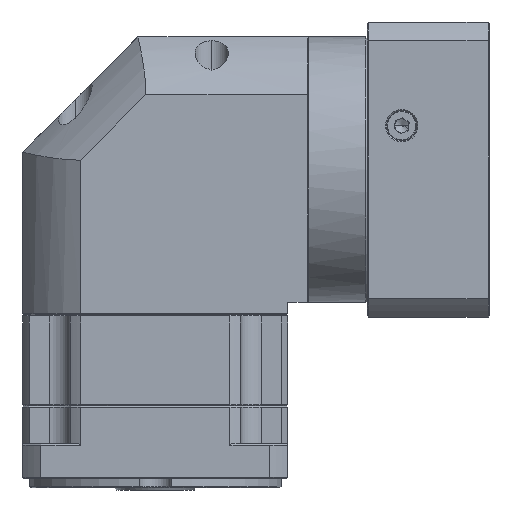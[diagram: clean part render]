
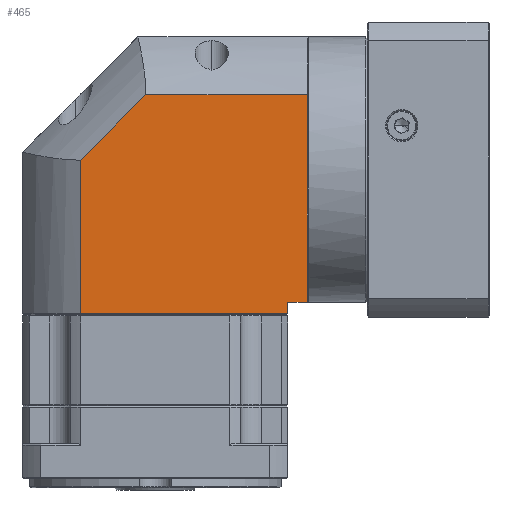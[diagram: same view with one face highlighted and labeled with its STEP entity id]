
A CAD part, front view. The second image highlights one B-rep face of the part: STEP entity #465.
In plain terms, the highlighted planar face has unit normal (0, -1, 0).
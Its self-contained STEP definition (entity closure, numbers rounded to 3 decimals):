
#465 = ADVANCED_FACE ( 'NONE', ( #86522 ), #58383, .F. ) ;
#849 = VERTEX_POINT ( 'NONE', #53193 ) ;
#3320 = LINE ( 'NONE', #107466, #113355 ) ;
#6767 = ORIENTED_EDGE ( 'NONE', *, *, #72844, .F. ) ;
#8560 = DIRECTION ( 'NONE',  ( -1., 0., 0. ) ) ;
#9732 = ORIENTED_EDGE ( 'NONE', *, *, #122087, .F. ) ;
#10076 = LINE ( 'NONE', #33274, #14801 ) ;
#11940 = EDGE_LOOP ( 'NONE', ( #6767, #34183, #72858, #74974, #71427, #9732, #96685 ) ) ;
#13223 = DIRECTION ( 'NONE',  ( 0., 0., -1. ) ) ;
#14801 = VECTOR ( 'NONE', #13223, 1000. ) ;
#18416 = VECTOR ( 'NONE', #30416, 1000. ) ;
#19944 = VERTEX_POINT ( 'NONE', #63660 ) ;
#28949 = DIRECTION ( 'NONE',  ( 0., 0., 1. ) ) ;
#30291 = VECTOR ( 'NONE', #35664, 1000. ) ;
#30416 = DIRECTION ( 'NONE',  ( 1., 0., 0. ) ) ;
#33274 = CARTESIAN_POINT ( 'NONE',  ( 93.818, 18.037, -55.179 ) ) ;
#33295 = CARTESIAN_POINT ( 'NONE',  ( 102.218, 18.037, 46.221 ) ) ;
#34183 = ORIENTED_EDGE ( 'NONE', *, *, #70077, .F. ) ;
#35664 = DIRECTION ( 'NONE',  ( 0., 0., -1. ) ) ;
#45509 = LINE ( 'NONE', #60259, #18416 ) ;
#45824 = EDGE_CURVE ( 'NONE', #118027, #19944, #109126, .T. ) ;
#47379 = EDGE_CURVE ( 'NONE', #131130, #83265, #121304, .T. ) ;
#47700 = DIRECTION ( 'NONE',  ( 0., 1., 0. ) ) ;
#48748 = LINE ( 'NONE', #121300, #87058 ) ;
#53193 = CARTESIAN_POINT ( 'NONE',  ( 93.818, 18.037, -43.679 ) ) ;
#56106 = DIRECTION ( 'NONE',  ( 0.707, 0., 0.707 ) ) ;
#57019 = CARTESIAN_POINT ( 'NONE',  ( 3.919, 18.037, 17.883 ) ) ;
#58383 = PLANE ( 'NONE',  #121908 ) ;
#59066 = EDGE_CURVE ( 'NONE', #91177, #123359, #69409, .T. ) ;
#60259 = CARTESIAN_POINT ( 'NONE',  ( -21.182, 18.037, 46.221 ) ) ;
#61068 = CARTESIAN_POINT ( 'NONE',  ( -21.182, 18.037, -48.679 ) ) ;
#63660 = CARTESIAN_POINT ( 'NONE',  ( 32.257, 18.037, 46.221 ) ) ;
#69409 = LINE ( 'NONE', #61068, #129795 ) ;
#69581 = CARTESIAN_POINT ( 'NONE',  ( -21.182, 18.037, -55.179 ) ) ;
#70077 = EDGE_CURVE ( 'NONE', #83265, #849, #3320, .T. ) ;
#71427 = ORIENTED_EDGE ( 'NONE', *, *, #45824, .F. ) ;
#72844 = EDGE_CURVE ( 'NONE', #849, #91177, #10076, .T. ) ;
#72858 = ORIENTED_EDGE ( 'NONE', *, *, #47379, .F. ) ;
#74974 = ORIENTED_EDGE ( 'NONE', *, *, #83341, .F. ) ;
#83265 = VERTEX_POINT ( 'NONE', #117435 ) ;
#83341 = EDGE_CURVE ( 'NONE', #19944, #131130, #45509, .T. ) ;
#85621 = CARTESIAN_POINT ( 'NONE',  ( 3.919, 18.037, 17.883 ) ) ;
#86522 = FACE_OUTER_BOUND ( 'NONE', #11940, .T. ) ;
#87058 = VECTOR ( 'NONE', #28949, 1000. ) ;
#91177 = VERTEX_POINT ( 'NONE', #99726 ) ;
#96685 = ORIENTED_EDGE ( 'NONE', *, *, #59066, .F. ) ;
#96840 = CARTESIAN_POINT ( 'NONE',  ( 102.218, 18.037, -55.179 ) ) ;
#99726 = CARTESIAN_POINT ( 'NONE',  ( 93.818, 18.037, -48.679 ) ) ;
#106616 = DIRECTION ( 'NONE',  ( -1., 0., 0. ) ) ;
#107466 = CARTESIAN_POINT ( 'NONE',  ( -21.182, 18.037, -43.679 ) ) ;
#109126 = LINE ( 'NONE', #57019, #110626 ) ;
#110626 = VECTOR ( 'NONE', #56106, 1000. ) ;
#110809 = CARTESIAN_POINT ( 'NONE',  ( 3.919, 18.037, -48.679 ) ) ;
#113355 = VECTOR ( 'NONE', #106616, 1000. ) ;
#117435 = CARTESIAN_POINT ( 'NONE',  ( 102.218, 18.037, -43.679 ) ) ;
#118027 = VERTEX_POINT ( 'NONE', #85621 ) ;
#121300 = CARTESIAN_POINT ( 'NONE',  ( 3.919, 18.037, -55.179 ) ) ;
#121304 = LINE ( 'NONE', #96840, #30291 ) ;
#121908 = AXIS2_PLACEMENT_3D ( 'NONE', #69581, #47700, #129775 ) ;
#122087 = EDGE_CURVE ( 'NONE', #123359, #118027, #48748, .T. ) ;
#123359 = VERTEX_POINT ( 'NONE', #110809 ) ;
#129775 = DIRECTION ( 'NONE',  ( 1., 0., 0. ) ) ;
#129795 = VECTOR ( 'NONE', #8560, 1000. ) ;
#131130 = VERTEX_POINT ( 'NONE', #33295 ) ;
